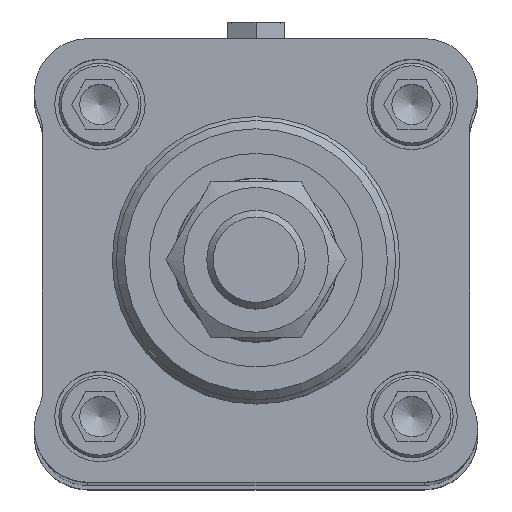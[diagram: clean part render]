
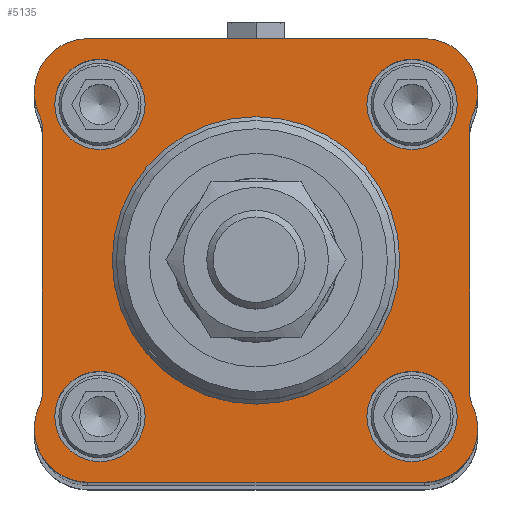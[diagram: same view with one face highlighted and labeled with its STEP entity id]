
A CAD part, top view. The second image highlights one B-rep face of the part: STEP entity #5135.
In plain terms, the highlighted planar face has unit normal (0, 0, 1) as drawn and (-1, 0, 0) by its records, which use the part's own axes.
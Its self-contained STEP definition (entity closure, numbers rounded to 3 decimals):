
#200=CIRCLE('',#5491,17.5);
#207=CIRCLE('',#5504,6.5);
#209=CIRCLE('',#5507,4.5);
#211=CIRCLE('',#5511,4.5);
#213=CIRCLE('',#5514,6.5);
#215=CIRCLE('',#5518,6.5);
#217=CIRCLE('',#5521,4.5);
#219=CIRCLE('',#5525,4.5);
#221=CIRCLE('',#5528,6.5);
#222=CIRCLE('',#5530,5.5);
#223=CIRCLE('',#5531,5.5);
#224=CIRCLE('',#5532,5.5);
#225=CIRCLE('',#5533,5.5);
#907=ORIENTED_EDGE('',*,*,#1552,.T.);
#908=ORIENTED_EDGE('',*,*,#1553,.T.);
#909=ORIENTED_EDGE('',*,*,#1554,.T.);
#910=ORIENTED_EDGE('',*,*,#1555,.T.);
#911=ORIENTED_EDGE('',*,*,#1510,.F.);
#912=ORIENTED_EDGE('',*,*,#1518,.F.);
#913=ORIENTED_EDGE('',*,*,#1551,.F.);
#914=ORIENTED_EDGE('',*,*,#1548,.T.);
#915=ORIENTED_EDGE('',*,*,#1545,.F.);
#916=ORIENTED_EDGE('',*,*,#1542,.T.);
#917=ORIENTED_EDGE('',*,*,#1539,.F.);
#918=ORIENTED_EDGE('',*,*,#1536,.F.);
#919=ORIENTED_EDGE('',*,*,#1533,.F.);
#920=ORIENTED_EDGE('',*,*,#1530,.T.);
#921=ORIENTED_EDGE('',*,*,#1527,.F.);
#922=ORIENTED_EDGE('',*,*,#1524,.T.);
#923=ORIENTED_EDGE('',*,*,#1521,.F.);
#1510=EDGE_CURVE('',#1903,#1903,#200,.F.);
#1518=EDGE_CURVE('',#1911,#1912,#2204,.T.);
#1521=EDGE_CURVE('',#1912,#1914,#207,.T.);
#1524=EDGE_CURVE('',#1916,#1914,#209,.T.);
#1527=EDGE_CURVE('',#1916,#1918,#2209,.T.);
#1530=EDGE_CURVE('',#1920,#1918,#211,.T.);
#1533=EDGE_CURVE('',#1920,#1922,#213,.T.);
#1536=EDGE_CURVE('',#1922,#1924,#2214,.T.);
#1539=EDGE_CURVE('',#1924,#1926,#215,.T.);
#1542=EDGE_CURVE('',#1928,#1926,#217,.T.);
#1545=EDGE_CURVE('',#1928,#1930,#2219,.T.);
#1548=EDGE_CURVE('',#1932,#1930,#219,.T.);
#1551=EDGE_CURVE('',#1932,#1911,#221,.T.);
#1552=EDGE_CURVE('',#1933,#1933,#222,.T.);
#1553=EDGE_CURVE('',#1934,#1934,#223,.T.);
#1554=EDGE_CURVE('',#1935,#1935,#224,.T.);
#1555=EDGE_CURVE('',#1936,#1936,#225,.T.);
#1903=VERTEX_POINT('',#7418);
#1911=VERTEX_POINT('',#7438);
#1912=VERTEX_POINT('',#7440);
#1914=VERTEX_POINT('',#7446);
#1916=VERTEX_POINT('',#7452);
#1918=VERTEX_POINT('',#7458);
#1920=VERTEX_POINT('',#7464);
#1922=VERTEX_POINT('',#7470);
#1924=VERTEX_POINT('',#7476);
#1926=VERTEX_POINT('',#7482);
#1928=VERTEX_POINT('',#7488);
#1930=VERTEX_POINT('',#7494);
#1932=VERTEX_POINT('',#7500);
#1933=VERTEX_POINT('',#7507);
#1934=VERTEX_POINT('',#7509);
#1935=VERTEX_POINT('',#7511);
#1936=VERTEX_POINT('',#7513);
#2204=LINE('',#7439,#2442);
#2209=LINE('',#7457,#2447);
#2214=LINE('',#7475,#2452);
#2219=LINE('',#7493,#2457);
#2442=VECTOR('',#6337,1000.);
#2447=VECTOR('',#6356,1000.);
#2452=VECTOR('',#6375,1000.);
#2457=VECTOR('',#6394,1000.);
#2744=EDGE_LOOP('',(#907));
#2745=EDGE_LOOP('',(#908));
#2746=EDGE_LOOP('',(#909));
#2747=EDGE_LOOP('',(#910));
#2748=EDGE_LOOP('',(#911));
#2749=EDGE_LOOP('',(#912,#913,#914,#915,#916,#917,#918,#919,#920,#921,#922,
#923));
#3149=FACE_BOUND('',#2744,.T.);
#3150=FACE_BOUND('',#2745,.T.);
#3151=FACE_BOUND('',#2746,.T.);
#3152=FACE_BOUND('',#2747,.T.);
#3153=FACE_BOUND('',#2748,.T.);
#3154=FACE_BOUND('',#2749,.T.);
#3407=PLANE('',#5529);
#5135=ADVANCED_FACE('',(#3149,#3150,#3151,#3152,#3153,#3154),#3407,.F.);
#5491=AXIS2_PLACEMENT_3D('',#7417,#6313,#6314);
#5504=AXIS2_PLACEMENT_3D('',#7445,#6343,#6344);
#5507=AXIS2_PLACEMENT_3D('',#7451,#6350,#6351);
#5511=AXIS2_PLACEMENT_3D('',#7463,#6362,#6363);
#5514=AXIS2_PLACEMENT_3D('',#7469,#6369,#6370);
#5518=AXIS2_PLACEMENT_3D('',#7481,#6381,#6382);
#5521=AXIS2_PLACEMENT_3D('',#7487,#6388,#6389);
#5525=AXIS2_PLACEMENT_3D('',#7499,#6400,#6401);
#5528=AXIS2_PLACEMENT_3D('',#7504,#6407,#6408);
#5529=AXIS2_PLACEMENT_3D('',#7505,#6409,#6410);
#5530=AXIS2_PLACEMENT_3D('',#7506,#6411,#6412);
#5531=AXIS2_PLACEMENT_3D('',#7508,#6413,#6414);
#5532=AXIS2_PLACEMENT_3D('',#7510,#6415,#6416);
#5533=AXIS2_PLACEMENT_3D('',#7512,#6417,#6418);
#6313=DIRECTION('',(1.,0.,0.));
#6314=DIRECTION('',(0.,0.,-1.));
#6337=DIRECTION('',(0.,-1.,0.));
#6343=DIRECTION('',(1.,0.,0.));
#6344=DIRECTION('',(0.,0.,-1.));
#6350=DIRECTION('',(1.,0.,0.));
#6351=DIRECTION('',(0.,0.,-1.));
#6356=DIRECTION('',(0.,0.,-1.));
#6362=DIRECTION('',(1.,0.,0.));
#6363=DIRECTION('',(0.,0.,-1.));
#6369=DIRECTION('',(1.,0.,0.));
#6370=DIRECTION('',(0.,0.,-1.));
#6375=DIRECTION('',(0.,1.,0.));
#6381=DIRECTION('',(1.,0.,0.));
#6382=DIRECTION('',(0.,0.,-1.));
#6388=DIRECTION('',(1.,0.,0.));
#6389=DIRECTION('',(0.,0.,-1.));
#6394=DIRECTION('',(0.,0.,1.));
#6400=DIRECTION('',(1.,0.,0.));
#6401=DIRECTION('',(0.,0.,-1.));
#6407=DIRECTION('',(1.,0.,0.));
#6408=DIRECTION('',(0.,0.,-1.));
#6409=DIRECTION('',(1.,0.,0.));
#6410=DIRECTION('',(0.,0.,-1.));
#6411=DIRECTION('',(1.,0.,0.));
#6412=DIRECTION('',(0.,0.,-1.));
#6413=DIRECTION('',(1.,0.,0.));
#6414=DIRECTION('',(0.,0.,-1.));
#6415=DIRECTION('',(1.,0.,0.));
#6416=DIRECTION('',(0.,0.,-1.));
#6417=DIRECTION('',(1.,0.,0.));
#6418=DIRECTION('',(0.,0.,-1.));
#7417=CARTESIAN_POINT('',(-30.,0.,0.));
#7418=CARTESIAN_POINT('',(-30.,0.,-17.5));
#7438=CARTESIAN_POINT('',(-30.,20.5,27.));
#7439=CARTESIAN_POINT('',(-30.,20.5,27.));
#7440=CARTESIAN_POINT('',(-30.,-20.5,27.));
#7445=CARTESIAN_POINT('',(-30.,-20.5,20.5));
#7446=CARTESIAN_POINT('',(-30.,-26.409,17.792));
#7451=CARTESIAN_POINT('',(-30.,-30.5,15.917));
#7452=CARTESIAN_POINT('',(-30.,-26.,15.917));
#7457=CARTESIAN_POINT('',(-30.,-26.,15.917));
#7458=CARTESIAN_POINT('',(-30.,-26.,-15.917));
#7463=CARTESIAN_POINT('',(-30.,-30.5,-15.917));
#7464=CARTESIAN_POINT('',(-30.,-26.409,-17.792));
#7469=CARTESIAN_POINT('',(-30.,-20.5,-20.5));
#7470=CARTESIAN_POINT('',(-30.,-20.5,-27.));
#7475=CARTESIAN_POINT('',(-30.,-20.5,-27.));
#7476=CARTESIAN_POINT('',(-30.,20.5,-27.));
#7481=CARTESIAN_POINT('',(-30.,20.5,-20.5));
#7482=CARTESIAN_POINT('',(-30.,26.409,-17.792));
#7487=CARTESIAN_POINT('',(-30.,30.5,-15.917));
#7488=CARTESIAN_POINT('',(-30.,26.,-15.917));
#7493=CARTESIAN_POINT('',(-30.,26.,-15.917));
#7494=CARTESIAN_POINT('',(-30.,26.,15.917));
#7499=CARTESIAN_POINT('',(-30.,30.5,15.917));
#7500=CARTESIAN_POINT('',(-30.,26.409,17.792));
#7504=CARTESIAN_POINT('',(-30.,20.5,20.5));
#7505=CARTESIAN_POINT('',(-30.,-20.5,20.5));
#7506=CARTESIAN_POINT('',(-30.,-19.,19.));
#7507=CARTESIAN_POINT('',(-30.,-19.,13.5));
#7508=CARTESIAN_POINT('',(-30.,-19.,-19.));
#7509=CARTESIAN_POINT('',(-30.,-19.,-24.5));
#7510=CARTESIAN_POINT('',(-30.,19.,-19.));
#7511=CARTESIAN_POINT('',(-30.,19.,-24.5));
#7512=CARTESIAN_POINT('',(-30.,19.,19.));
#7513=CARTESIAN_POINT('',(-30.,19.,13.5));
